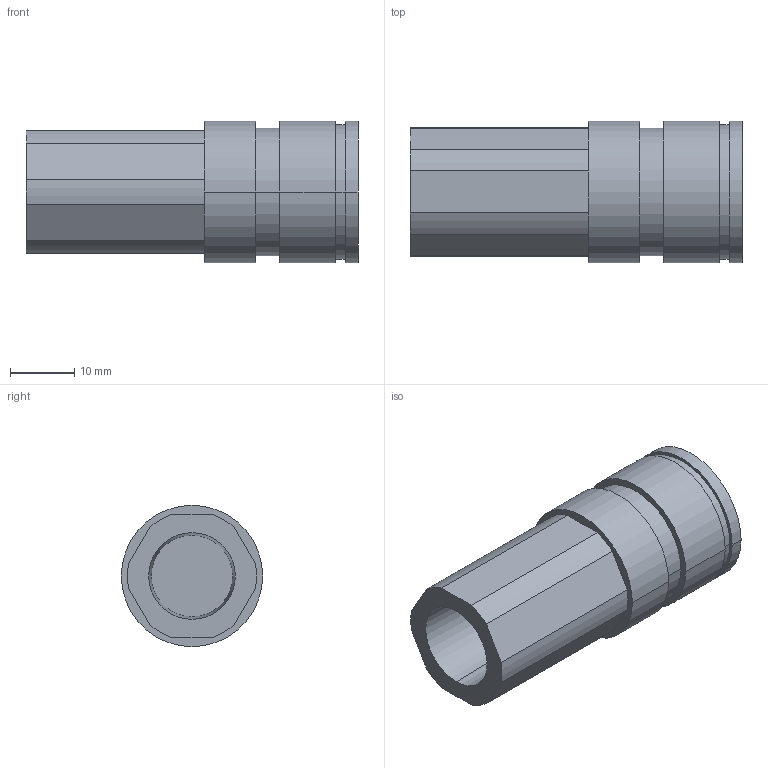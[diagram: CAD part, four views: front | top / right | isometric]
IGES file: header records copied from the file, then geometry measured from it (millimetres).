
Global section: file name: No Iges File Name specified; native system: Autodesk Inventor 2009; preprocessor: AutoDesk Inventor Iges Exporter R2009; author: y-shimohigashi; date: 20080702.152735; units: millimetre
Bounding box: 51.7 x 22 x 22 mm (x, y, z)
Volume: 12529.3 mm3; surface area: 5671 mm2
Topology: 1 solids, 1 shells, 35 faces, 78 edges, 52 vertices
Faces by surface type: cylinder 16, plane 15, revolution 4
